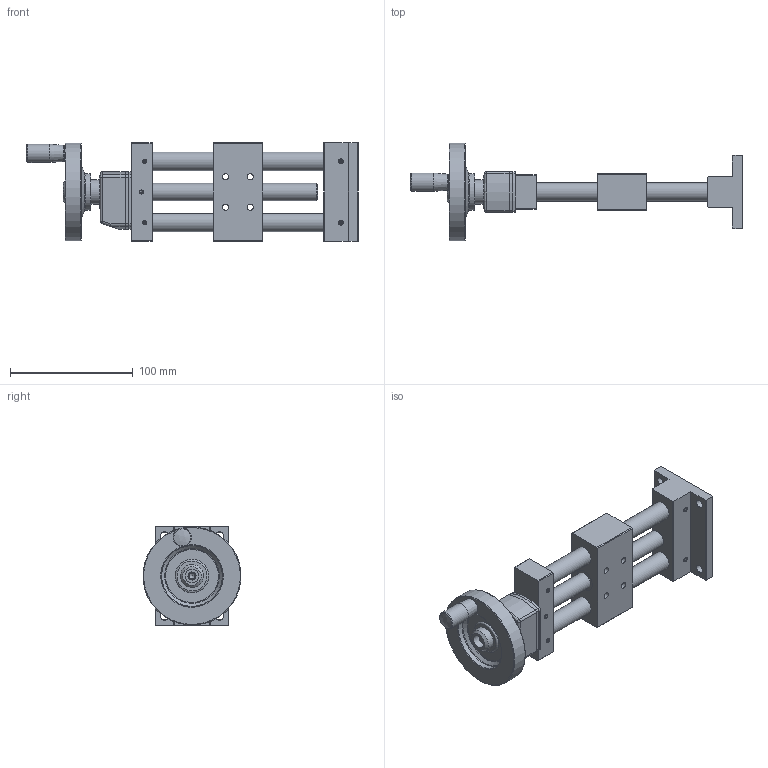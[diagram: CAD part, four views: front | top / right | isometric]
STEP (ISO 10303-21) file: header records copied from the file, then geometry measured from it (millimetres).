
FILE_DESCRIPTION (( 'STEP AP203' ), '1' );
FILE_NAME ('BHST40-50.STEP', '2024-07-30T00:05:13', ( 'Windows User' ), ( 'P R C' ), 'SwSTEP 2.0', 'SolidWorks 2024', '' );
FILE_SCHEMA (( 'CONFIG_CONTROL_DESIGN' ));
Length unit declared in the file: millimetre
Products named in the file (1): BHST40-50
Bounding box: 270.9 x 79.79 x 80 mm (x, y, z)
Volume: 354227.9 mm3; surface area: 110041.9 mm2
Topology: 27 solids, 27 shells, 481 faces, 1074 edges, 665 vertices
Faces by surface type: plane 280, cylinder 108, cone 70, bspline 11, torus 11, sphere 1
Full cylindrical faces by diameter (mm): 3 x1, 3.3 x13, 4 x13, 4.917 x1, 5 x5, 6 x3, 6.6 x5, 7.5 x2, 8 x2, 10 x5, 10.1 x1, 11 x1, 13 x1, 14 x2, 15 x9, 16 x2, 17 x1, 17.1 x1, 17.8 x2, 19 x1, 19.8 x3, 27 x1, 30 x1, 50 x1, 80 x1
Entity records: 13097 total; most frequent: CARTESIAN_POINT 3068, DIRECTION 2116, ORIENTED_EDGE 1722, EDGE_CURVE 861, AXIS2_PLACEMENT_3D 817, EDGE_LOOP 735, VERTEX_POINT 616, FACE_OUTER_BOUND 570
